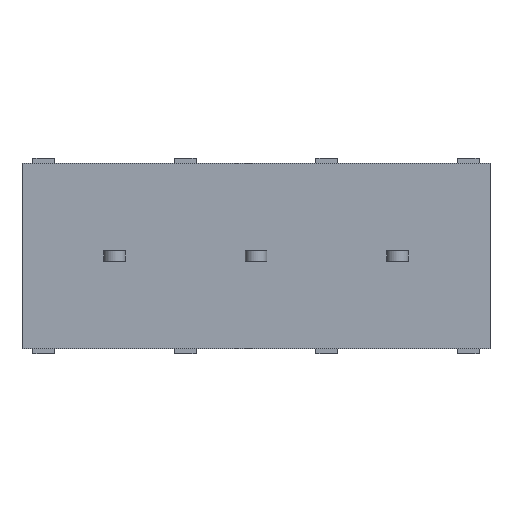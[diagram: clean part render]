
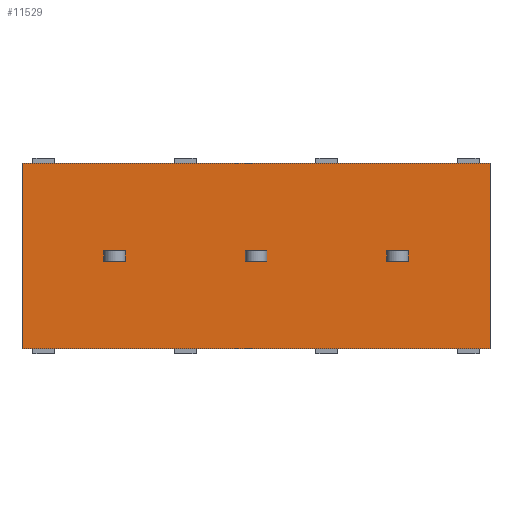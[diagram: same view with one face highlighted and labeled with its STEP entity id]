
A CAD part, front view. The second image highlights one B-rep face of the part: STEP entity #11529.
In plain terms, the highlighted planar face has unit normal (0, -1, 0).
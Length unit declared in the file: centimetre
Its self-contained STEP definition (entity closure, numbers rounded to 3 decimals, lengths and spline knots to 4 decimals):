
#743=VERTEX_POINT('',#14522);
#744=VERTEX_POINT('',#14523);
#764=VERTEX_POINT('',#14576);
#767=VERTEX_POINT('',#14586);
#886=VERTEX_POINT('',#14970);
#887=VERTEX_POINT('',#14971);
#907=VERTEX_POINT('',#15024);
#910=VERTEX_POINT('',#15034);
#1101=VERTEX_POINT('',#15654);
#1102=VERTEX_POINT('',#15656);
#1153=VERTEX_POINT('',#15826);
#1154=VERTEX_POINT('',#15827);
#1157=VERTEX_POINT('',#15849);
#1160=VERTEX_POINT('',#15859);
#1513=VERTEX_POINT('',#17396);
#1514=VERTEX_POINT('',#17398);
#1894=VECTOR('',#12222,1.);
#1916=VECTOR('',#12260,1.);
#1920=VECTOR('',#12269,1.);
#1922=VECTOR('',#12274,1.);
#2031=VECTOR('',#12564,1.);
#2053=VECTOR('',#12602,1.);
#2057=VECTOR('',#12611,1.);
#2059=VECTOR('',#12616,1.);
#2220=VECTOR('',#13082,1.);
#2293=VECTOR('',#13223,1.);
#2303=VECTOR('',#13246,1.);
#2307=VECTOR('',#13255,1.);
#2308=VECTOR('',#13259,1.);
#2715=VECTOR('',#13831,1.);
#2766=VECTOR('',#13938,1.);
#2767=VECTOR('',#13940,1.);
#3166=LINE('',#14521,#1894);
#3188=LINE('',#14578,#1916);
#3192=LINE('',#14587,#1920);
#3194=LINE('',#14592,#1922);
#3303=LINE('',#14969,#2031);
#3325=LINE('',#15026,#2053);
#3329=LINE('',#15035,#2057);
#3331=LINE('',#15040,#2059);
#3492=LINE('',#15655,#2220);
#3565=LINE('',#15825,#2293);
#3575=LINE('',#15851,#2303);
#3579=LINE('',#15860,#2307);
#3580=LINE('',#15863,#2308);
#3987=LINE('',#17397,#2715);
#4038=LINE('',#17520,#2766);
#4039=LINE('',#17522,#2767);
#4440=EDGE_CURVE('',#743,#744,#3166,.T.);
#4472=EDGE_CURVE('',#744,#764,#3188,.T.);
#4477=EDGE_CURVE('',#767,#743,#3192,.T.);
#4480=EDGE_CURVE('',#764,#767,#3194,.T.);
#4649=EDGE_CURVE('',#886,#887,#3303,.T.);
#4681=EDGE_CURVE('',#887,#907,#3325,.T.);
#4686=EDGE_CURVE('',#910,#886,#3329,.T.);
#4689=EDGE_CURVE('',#907,#910,#3331,.T.);
#4962=EDGE_CURVE('',#1102,#1101,#3492,.T.);
#5049=EDGE_CURVE('',#1153,#1154,#3565,.T.);
#5061=EDGE_CURVE('',#1153,#1157,#3575,.T.);
#5066=EDGE_CURVE('',#1154,#1160,#3579,.T.);
#5068=EDGE_CURVE('',#1160,#1157,#3580,.T.);
#5590=EDGE_CURVE('',#1514,#1513,#3987,.T.);
#5652=EDGE_CURVE('',#1101,#1514,#4038,.T.);
#5653=EDGE_CURVE('',#1102,#1513,#4039,.T.);
#8531=ORIENTED_EDGE('',*,*,#4480,.T.);
#8532=ORIENTED_EDGE('',*,*,#4477,.T.);
#8533=ORIENTED_EDGE('',*,*,#4440,.T.);
#8534=ORIENTED_EDGE('',*,*,#4472,.T.);
#8535=ORIENTED_EDGE('',*,*,#4689,.T.);
#8536=ORIENTED_EDGE('',*,*,#4686,.T.);
#8537=ORIENTED_EDGE('',*,*,#4649,.T.);
#8538=ORIENTED_EDGE('',*,*,#4681,.T.);
#8539=ORIENTED_EDGE('',*,*,#5049,.F.);
#8540=ORIENTED_EDGE('',*,*,#5061,.T.);
#8541=ORIENTED_EDGE('',*,*,#5068,.F.);
#8542=ORIENTED_EDGE('',*,*,#5066,.F.);
#8543=ORIENTED_EDGE('',*,*,#5652,.T.);
#8544=ORIENTED_EDGE('',*,*,#5590,.T.);
#8545=ORIENTED_EDGE('',*,*,#5653,.F.);
#8546=ORIENTED_EDGE('',*,*,#4962,.T.);
#10116=EDGE_LOOP('',(#8531,#8532,#8533,#8534));
#10117=EDGE_LOOP('',(#8535,#8536,#8537,#8538));
#10118=EDGE_LOOP('',(#8539,#8540,#8541,#8542));
#10119=EDGE_LOOP('',(#8543,#8544,#8545,#8546));
#10842=FACE_BOUND('',#10116,.T.);
#10843=FACE_BOUND('',#10117,.T.);
#10844=FACE_BOUND('',#10118,.T.);
#10845=FACE_BOUND('',#10119,.T.);
#11529=ADVANCED_FACE('',(#10842,#10843,#10844,#10845),#12053,.T.);
#12053=PLANE('',#19617);
#12222=DIRECTION('',(-1.,0.,0.));
#12260=DIRECTION('',(0.,0.,1.));
#12269=DIRECTION('',(0.,0.,-1.));
#12274=DIRECTION('',(1.,0.,0.));
#12564=DIRECTION('',(-1.,0.,0.));
#12602=DIRECTION('',(0.,0.,1.));
#12611=DIRECTION('',(0.,0.,-1.));
#12616=DIRECTION('',(1.,0.,0.));
#13082=DIRECTION('',(0.,0.,-1.));
#13223=DIRECTION('',(1.,0.,0.));
#13246=DIRECTION('',(0.,0.,1.));
#13255=DIRECTION('',(0.,0.,1.));
#13259=DIRECTION('',(-1.,0.,0.));
#13831=DIRECTION('',(0.,0.,1.));
#13938=DIRECTION('',(1.,0.,0.));
#13939=DIRECTION('',(0.,-1.,0.));
#13940=DIRECTION('',(1.,0.,0.));
#14521=CARTESIAN_POINT('',(3.5275,0.,-0.05));
#14522=CARTESIAN_POINT('',(3.55,0.,-0.05));
#14523=CARTESIAN_POINT('',(3.35,0.,-0.05));
#14576=CARTESIAN_POINT('',(3.35,0.,0.05));
#14578=CARTESIAN_POINT('',(3.35,0.,-0.2275));
#14586=CARTESIAN_POINT('',(3.55,0.,0.05));
#14587=CARTESIAN_POINT('',(3.55,0.,-0.2275));
#14592=CARTESIAN_POINT('',(3.5275,0.,0.05));
#14969=CARTESIAN_POINT('',(1.24,0.,-0.05));
#14970=CARTESIAN_POINT('',(2.25,0.,-0.05));
#14971=CARTESIAN_POINT('',(2.05,0.,-0.05));
#15024=CARTESIAN_POINT('',(2.05,0.,0.05));
#15026=CARTESIAN_POINT('',(2.05,0.,-0.455));
#15034=CARTESIAN_POINT('',(2.25,0.,0.05));
#15035=CARTESIAN_POINT('',(2.25,0.,-0.455));
#15040=CARTESIAN_POINT('',(1.24,0.,0.05));
#15654=CARTESIAN_POINT('',(0.,0.,-0.85));
#15655=CARTESIAN_POINT('',(0.,0.,0.85));
#15656=CARTESIAN_POINT('',(0.,0.,0.85));
#15825=CARTESIAN_POINT('',(0.3775,0.,-0.05));
#15826=CARTESIAN_POINT('',(0.75,0.,-0.05));
#15827=CARTESIAN_POINT('',(0.95,0.,-0.05));
#15849=CARTESIAN_POINT('',(0.75,0.,0.05));
#15851=CARTESIAN_POINT('',(0.75,0.,-0.455));
#15859=CARTESIAN_POINT('',(0.95,0.,0.05));
#15860=CARTESIAN_POINT('',(0.95,0.,-0.455));
#15863=CARTESIAN_POINT('',(0.3775,0.,0.05));
#17396=CARTESIAN_POINT('',(4.3,0.,0.85));
#17397=CARTESIAN_POINT('',(4.3,0.,0.85));
#17398=CARTESIAN_POINT('',(4.3,0.,-0.85));
#17520=CARTESIAN_POINT('',(4.,0.,-0.85));
#17521=CARTESIAN_POINT('',(4.,0.,0.));
#17522=CARTESIAN_POINT('',(4.,0.,0.85));
#19617=AXIS2_PLACEMENT_3D('',#17521,#13939,$);
